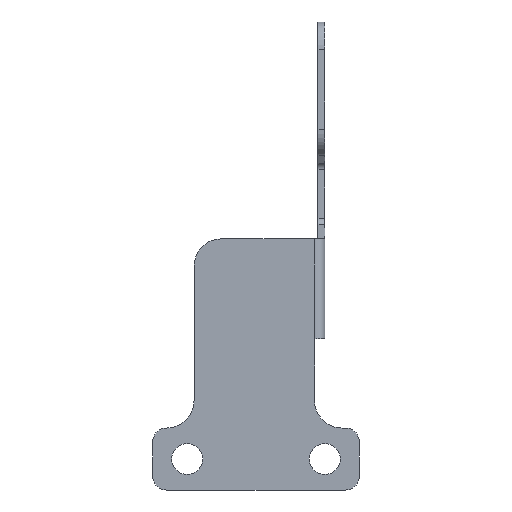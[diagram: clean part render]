
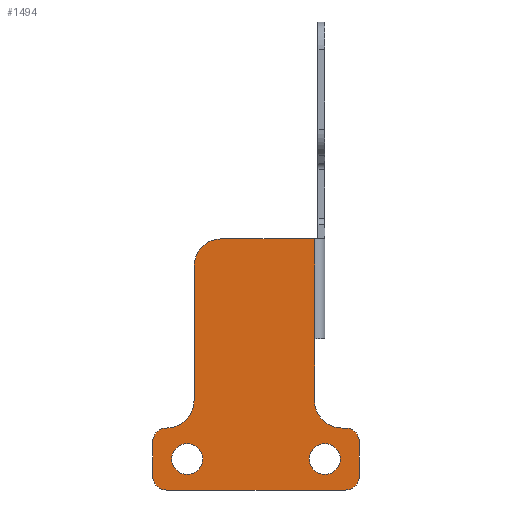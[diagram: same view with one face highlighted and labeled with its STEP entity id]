
A CAD part, front view. The second image highlights one B-rep face of the part: STEP entity #1494.
In plain terms, the highlighted planar face has unit normal (0, -1, 0).
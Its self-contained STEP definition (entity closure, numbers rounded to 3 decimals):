
#547=DIRECTION('',(0.,0.,1.));
#548=VECTOR('',#547,19.5);
#549=CARTESIAN_POINT('',(-18.,-1.,-55.));
#550=LINE('',#549,#548);
#554=DIRECTION('',(-1.,0.,0.));
#555=VECTOR('',#554,13.5);
#556=CARTESIAN_POINT('',(-0.5,-1.,-31.5));
#557=LINE('',#556,#555);
#561=CARTESIAN_POINT('',(3.5,-1.,-55.));
#562=DIRECTION('',(0.,1.,0.));
#563=DIRECTION('',(0.,0.,-1.));
#564=AXIS2_PLACEMENT_3D('',#561,#562,#563);
#569=CARTESIAN_POINT('',(4.,-1.,-61.));
#570=DIRECTION('',(0.,-1.,0.));
#571=DIRECTION('',(1.,0.,0.));
#572=AXIS2_PLACEMENT_3D('',#569,#570,#571);
#577=CARTESIAN_POINT('',(4.,-1.,-66.));
#578=DIRECTION('',(0.,-1.,0.));
#579=DIRECTION('',(0.,0.,-1.));
#580=AXIS2_PLACEMENT_3D('',#577,#578,#579);
#585=CARTESIAN_POINT('',(-22.,-1.,-66.));
#586=DIRECTION('',(0.,-1.,0.));
#587=DIRECTION('',(-1.,0.,0.));
#588=AXIS2_PLACEMENT_3D('',#585,#586,#587);
#593=CARTESIAN_POINT('',(-22.,-1.,-61.));
#594=DIRECTION('',(0.,-1.,0.));
#595=DIRECTION('',(0.,0.,1.));
#596=AXIS2_PLACEMENT_3D('',#593,#594,#595);
#601=CARTESIAN_POINT('',(-22.,-1.,-55.));
#602=DIRECTION('',(0.,1.,0.));
#603=DIRECTION('',(1.,0.,0.));
#604=AXIS2_PLACEMENT_3D('',#601,#602,#603);
#609=CARTESIAN_POINT('',(-14.,-1.,-35.5));
#610=DIRECTION('',(0.,-1.,0.));
#611=DIRECTION('',(0.,0.,1.));
#612=AXIS2_PLACEMENT_3D('',#609,#610,#611);
#617=CARTESIAN_POINT('',(1.,-1.,-63.5));
#618=DIRECTION('',(0.,1.,0.));
#619=DIRECTION('',(0.,0.,-1.));
#620=AXIS2_PLACEMENT_3D('',#617,#618,#619);
#625=CARTESIAN_POINT('',(1.,-1.,-63.5));
#626=DIRECTION('',(0.,1.,0.));
#627=DIRECTION('',(1.,0.,0.));
#628=AXIS2_PLACEMENT_3D('',#625,#626,#627);
#633=CARTESIAN_POINT('',(1.,-1.,-63.5));
#634=DIRECTION('',(0.,1.,0.));
#635=DIRECTION('',(-1.,0.,0.));
#636=AXIS2_PLACEMENT_3D('',#633,#634,#635);
#641=CARTESIAN_POINT('',(-19.,-1.,-63.5));
#642=DIRECTION('',(0.,1.,0.));
#643=DIRECTION('',(0.,0.,-1.));
#644=AXIS2_PLACEMENT_3D('',#641,#642,#643);
#649=CARTESIAN_POINT('',(-19.,-1.,-63.5));
#650=DIRECTION('',(0.,1.,0.));
#651=DIRECTION('',(1.,0.,0.));
#652=AXIS2_PLACEMENT_3D('',#649,#650,#651);
#657=CARTESIAN_POINT('',(-19.,-1.,-63.5));
#658=DIRECTION('',(0.,1.,0.));
#659=DIRECTION('',(-1.,0.,0.));
#660=AXIS2_PLACEMENT_3D('',#657,#658,#659);
#709=DIRECTION('',(0.,0.,-1.));
#710=VECTOR('',#709,14.5);
#711=CARTESIAN_POINT('',(-0.5,-1.,-31.5));
#712=LINE('',#711,#710);
#786=DIRECTION('',(0.,0.,-1.));
#787=VECTOR('',#786,9.);
#788=CARTESIAN_POINT('',(-0.5,-1.,-46.));
#789=LINE('',#788,#787);
#807=DIRECTION('',(1.,0.,0.));
#808=VECTOR('',#807,0.5);
#809=CARTESIAN_POINT('',(3.5,-1.,-59.));
#810=LINE('',#809,#808);
#828=DIRECTION('',(0.,0.,-1.));
#829=VECTOR('',#828,5.);
#830=CARTESIAN_POINT('',(6.,-1.,-61.));
#831=LINE('',#830,#829);
#849=DIRECTION('',(-1.,0.,0.));
#850=VECTOR('',#849,26.);
#851=CARTESIAN_POINT('',(4.,-1.,-68.));
#852=LINE('',#851,#850);
#870=DIRECTION('',(0.,0.,1.));
#871=VECTOR('',#870,5.);
#872=CARTESIAN_POINT('',(-24.,-1.,-66.));
#873=LINE('',#872,#871);
#972=CARTESIAN_POINT('',(4.,-1.,-68.));
#973=VERTEX_POINT('',#972);
#974=CARTESIAN_POINT('',(-22.,-1.,-68.));
#975=VERTEX_POINT('',#974);
#980=CARTESIAN_POINT('',(-0.5,-1.,-55.));
#981=VERTEX_POINT('',#980);
#982=CARTESIAN_POINT('',(3.5,-1.,-59.));
#983=VERTEX_POINT('',#982);
#996=CARTESIAN_POINT('',(4.,-1.,-59.));
#997=VERTEX_POINT('',#996);
#998=CARTESIAN_POINT('',(6.,-1.,-61.));
#999=VERTEX_POINT('',#998);
#1008=CARTESIAN_POINT('',(6.,-1.,-66.));
#1009=VERTEX_POINT('',#1008);
#1012=CARTESIAN_POINT('',(-0.5,-1.,-31.5));
#1013=CARTESIAN_POINT('',(-14.,-1.,-31.5));
#1014=VERTEX_POINT('',#1012);
#1015=VERTEX_POINT('',#1013);
#1016=CARTESIAN_POINT('',(-18.,-1.,-35.5));
#1017=VERTEX_POINT('',#1016);
#1018=CARTESIAN_POINT('',(-18.,-1.,-55.));
#1019=VERTEX_POINT('',#1018);
#1020=CARTESIAN_POINT('',(-22.,-1.,-59.));
#1021=VERTEX_POINT('',#1020);
#1022=CARTESIAN_POINT('',(-24.,-1.,-61.));
#1023=VERTEX_POINT('',#1022);
#1024=CARTESIAN_POINT('',(-24.,-1.,-66.));
#1025=VERTEX_POINT('',#1024);
#1026=CARTESIAN_POINT('',(-0.5,-1.,-46.));
#1027=VERTEX_POINT('',#1026);
#1112=CARTESIAN_POINT('',(-21.25,-1.,-63.5));
#1114=VERTEX_POINT('',#1112);
#1116=CARTESIAN_POINT('',(-16.75,-1.,-63.5));
#1118=VERTEX_POINT('',#1116);
#1120=CARTESIAN_POINT('',(-19.,-1.,-65.75));
#1121=VERTEX_POINT('',#1120);
#1122=CARTESIAN_POINT('',(-1.25,-1.,-63.5));
#1124=VERTEX_POINT('',#1122);
#1126=CARTESIAN_POINT('',(3.25,-1.,-63.5));
#1128=VERTEX_POINT('',#1126);
#1130=CARTESIAN_POINT('',(1.,-1.,-65.75));
#1131=VERTEX_POINT('',#1130);
#1442=CARTESIAN_POINT('',(-18.,-1.,0.));
#1443=DIRECTION('',(0.,1.,0.));
#1444=DIRECTION('',(1.,0.,0.));
#1445=AXIS2_PLACEMENT_3D('',#1442,#1443,#1444);
#1446=PLANE('',#1445);
#1448=ORIENTED_EDGE('',*,*,#1447,.F.);
#1450=ORIENTED_EDGE('',*,*,#1449,.T.);
#1452=ORIENTED_EDGE('',*,*,#1451,.T.);
#1454=ORIENTED_EDGE('',*,*,#1453,.F.);
#1456=ORIENTED_EDGE('',*,*,#1455,.T.);
#1458=ORIENTED_EDGE('',*,*,#1457,.F.);
#1460=ORIENTED_EDGE('',*,*,#1459,.T.);
#1462=ORIENTED_EDGE('',*,*,#1461,.F.);
#1464=ORIENTED_EDGE('',*,*,#1463,.T.);
#1466=ORIENTED_EDGE('',*,*,#1465,.F.);
#1468=ORIENTED_EDGE('',*,*,#1467,.T.);
#1470=ORIENTED_EDGE('',*,*,#1469,.F.);
#1472=ORIENTED_EDGE('',*,*,#1471,.F.);
#1473=ORIENTED_EDGE('',*,*,#1432,.T.);
#1475=ORIENTED_EDGE('',*,*,#1474,.F.);
#1476=EDGE_LOOP('',(#1448,#1450,#1452,#1454,#1456,#1458,#1460,#1462,#1464,#1466,
#1468,#1470,#1472,#1473,#1475));
#1477=FACE_OUTER_BOUND('',#1476,.F.);
#1479=ORIENTED_EDGE('',*,*,#1478,.F.);
#1481=ORIENTED_EDGE('',*,*,#1480,.F.);
#1483=ORIENTED_EDGE('',*,*,#1482,.F.);
#1484=EDGE_LOOP('',(#1479,#1481,#1483));
#1485=FACE_BOUND('',#1484,.F.);
#1487=ORIENTED_EDGE('',*,*,#1486,.F.);
#1489=ORIENTED_EDGE('',*,*,#1488,.F.);
#1491=ORIENTED_EDGE('',*,*,#1490,.F.);
#1492=EDGE_LOOP('',(#1487,#1489,#1491));
#1493=FACE_BOUND('',#1492,.F.);
#565=CIRCLE('',#564,4.);
#573=CIRCLE('',#572,2.);
#581=CIRCLE('',#580,2.);
#589=CIRCLE('',#588,2.);
#597=CIRCLE('',#596,2.);
#605=CIRCLE('',#604,4.);
#613=CIRCLE('',#612,4.);
#621=CIRCLE('',#620,2.25);
#629=CIRCLE('',#628,2.25);
#637=CIRCLE('',#636,2.25);
#645=CIRCLE('',#644,2.25);
#653=CIRCLE('',#652,2.25);
#661=CIRCLE('',#660,2.25);
#1432=EDGE_CURVE('',#1019,#1017,#550,.T.);
#1447=EDGE_CURVE('',#1014,#1015,#557,.T.);
#1449=EDGE_CURVE('',#1014,#1027,#712,.T.);
#1451=EDGE_CURVE('',#1027,#981,#789,.T.);
#1453=EDGE_CURVE('',#983,#981,#565,.T.);
#1455=EDGE_CURVE('',#983,#997,#810,.T.);
#1457=EDGE_CURVE('',#999,#997,#573,.T.);
#1459=EDGE_CURVE('',#999,#1009,#831,.T.);
#1461=EDGE_CURVE('',#973,#1009,#581,.T.);
#1463=EDGE_CURVE('',#973,#975,#852,.T.);
#1465=EDGE_CURVE('',#1025,#975,#589,.T.);
#1467=EDGE_CURVE('',#1025,#1023,#873,.T.);
#1469=EDGE_CURVE('',#1021,#1023,#597,.T.);
#1471=EDGE_CURVE('',#1019,#1021,#605,.T.);
#1474=EDGE_CURVE('',#1015,#1017,#613,.T.);
#1478=EDGE_CURVE('',#1131,#1124,#621,.T.);
#1480=EDGE_CURVE('',#1128,#1131,#629,.T.);
#1482=EDGE_CURVE('',#1124,#1128,#637,.T.);
#1486=EDGE_CURVE('',#1121,#1114,#645,.T.);
#1488=EDGE_CURVE('',#1118,#1121,#653,.T.);
#1490=EDGE_CURVE('',#1114,#1118,#661,.T.);
#1494=ADVANCED_FACE('',(#1477,#1485,#1493),#1446,.F.);
